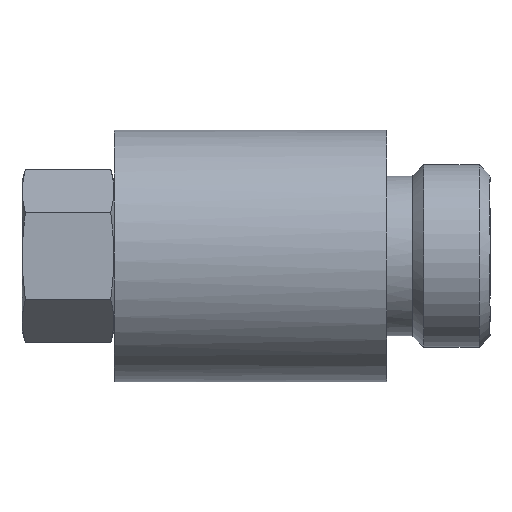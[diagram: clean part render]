
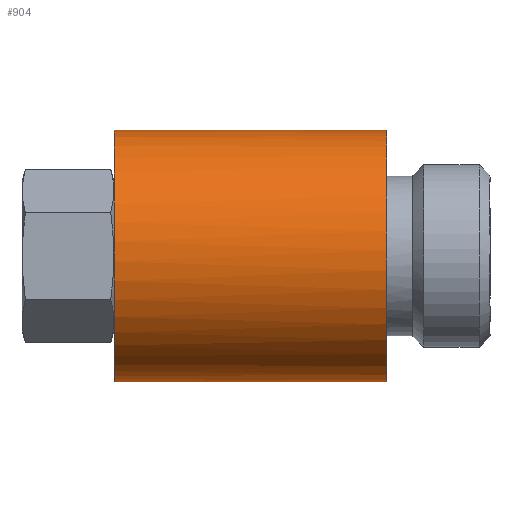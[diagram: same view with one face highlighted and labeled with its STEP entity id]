
A CAD part, left-side view. The second image highlights one B-rep face of the part: STEP entity #904.
In plain terms, the highlighted free-form (B-spline) face has degree [1, 3] with [2, 4] control points.
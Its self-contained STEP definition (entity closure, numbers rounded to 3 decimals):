
#9 = B_SPLINE_CURVE_WITH_KNOTS ( 'NONE', 1,
 ( #682, #81 ),
 .UNSPECIFIED., .F., .F.,
 ( 2, 2 ),
 ( 0., 1. ),
 .UNSPECIFIED. ) ;
#34 = EDGE_CURVE ( 'NONE', #35, #598, #136, .T. ) ;
#35 = VERTEX_POINT ( 'NONE', #1016 ) ;
#81 = CARTESIAN_POINT ( 'NONE',  ( 0., 14.5, -6.7 ) ) ;
#136 =( BOUNDED_CURVE ( )  B_SPLINE_CURVE ( 3, ( #1492, #519, #889, #1250 ),
 .UNSPECIFIED., .F., .T. ) 
 B_SPLINE_CURVE_WITH_KNOTS ( ( 4, 4 ),
 ( 0., 0.5 ),
 .UNSPECIFIED. ) 
 CURVE ( )  GEOMETRIC_REPRESENTATION_ITEM ( )  RATIONAL_B_SPLINE_CURVE ( ( 1., 0.333, 0.333, 1. ) ) 
 REPRESENTATION_ITEM ( '' )  );
#256 =( BOUNDED_CURVE ( )  B_SPLINE_CURVE ( 3, ( #336, #1088, #296, #604 ),
 .UNSPECIFIED., .F., .T. ) 
 B_SPLINE_CURVE_WITH_KNOTS ( ( 4, 4 ),
 ( 0.5, 1. ),
 .UNSPECIFIED. ) 
 CURVE ( )  GEOMETRIC_REPRESENTATION_ITEM ( )  RATIONAL_B_SPLINE_CURVE ( ( 1., 0.333, 0.333, 1. ) ) 
 REPRESENTATION_ITEM ( '' )  );
#296 = CARTESIAN_POINT ( 'NONE',  ( -13.4, 14.5, -6.7 ) ) ;
#336 = CARTESIAN_POINT ( 'NONE',  ( 0., 14.5, 6.7 ) ) ;
#498 = ORIENTED_EDGE ( 'NONE', *, *, #1180, .T. ) ;
#503 = ORIENTED_EDGE ( 'NONE', *, *, #1001, .T. ) ;
#507 = EDGE_CURVE ( 'NONE', #35, #1260, #9, .T. ) ;
#518 = CARTESIAN_POINT ( 'NONE',  ( 0., 14.5, -6.7 ) ) ;
#519 = CARTESIAN_POINT ( 'NONE',  ( -13.4, 0., -6.7 ) ) ;
#559 = B_SPLINE_CURVE_WITH_KNOTS ( 'NONE', 1,
 ( #1029, #1506 ),
 .UNSPECIFIED., .F., .F.,
 ( 2, 2 ),
 ( 0., 1. ),
 .UNSPECIFIED. ) ;
#582 = CARTESIAN_POINT ( 'NONE',  ( 0., 14.5, -6.7 ) ) ;
#598 = VERTEX_POINT ( 'NONE', #1288 ) ;
#604 = CARTESIAN_POINT ( 'NONE',  ( 0., 14.5, -6.7 ) ) ;
#682 = CARTESIAN_POINT ( 'NONE',  ( 0., 0., -6.7 ) ) ;
#697 = ORIENTED_EDGE ( 'NONE', *, *, #34, .T. ) ;
#743 =( BOUNDED_SURFACE ( )  B_SPLINE_SURFACE ( 1, 3, ( 
 ( #1399, #1607, #1131, #774 ),
 ( #1615, #1147, #750, #518 ) ),
 .UNSPECIFIED., .F., .F., .F. ) 
 B_SPLINE_SURFACE_WITH_KNOTS ( ( 2, 2 ),
 ( 4, 4 ),
 ( 0., 1. ),
 ( 0., 1. ),
 .UNSPECIFIED. ) 
 GEOMETRIC_REPRESENTATION_ITEM ( )  RATIONAL_B_SPLINE_SURFACE ( (
 ( 1., 0.333, 0.333, 1.),
 ( 1., 0.333, 0.333, 1.) ) ) 
 REPRESENTATION_ITEM ( '' )  SURFACE ( )  );
#750 = CARTESIAN_POINT ( 'NONE',  ( -13.4, 14.5, -6.7 ) ) ;
#774 = CARTESIAN_POINT ( 'NONE',  ( 0., 0., -6.7 ) ) ;
#889 = CARTESIAN_POINT ( 'NONE',  ( -13.4, 0., 6.7 ) ) ;
#904 = ADVANCED_FACE ( 'NONE', ( #914 ), #743, .T. ) ;
#914 = FACE_OUTER_BOUND ( 'NONE', #1237, .T. ) ;
#1001 = EDGE_CURVE ( 'NONE', #1364, #1260, #256, .T. ) ;
#1016 = CARTESIAN_POINT ( 'NONE',  ( 0., 0., -6.7 ) ) ;
#1029 = CARTESIAN_POINT ( 'NONE',  ( 0., 0., 6.7 ) ) ;
#1088 = CARTESIAN_POINT ( 'NONE',  ( -13.4, 14.5, 6.7 ) ) ;
#1131 = CARTESIAN_POINT ( 'NONE',  ( -13.4, 0., -6.7 ) ) ;
#1147 = CARTESIAN_POINT ( 'NONE',  ( -13.4, 14.5, 6.7 ) ) ;
#1180 = EDGE_CURVE ( 'NONE', #598, #1364, #559, .T. ) ;
#1237 = EDGE_LOOP ( 'NONE', ( #697, #498, #503, #1510 ) ) ;
#1250 = CARTESIAN_POINT ( 'NONE',  ( 0., 0., 6.7 ) ) ;
#1260 = VERTEX_POINT ( 'NONE', #582 ) ;
#1288 = CARTESIAN_POINT ( 'NONE',  ( 0., 0., 6.7 ) ) ;
#1364 = VERTEX_POINT ( 'NONE', #1502 ) ;
#1399 = CARTESIAN_POINT ( 'NONE',  ( 0., 0., 6.7 ) ) ;
#1492 = CARTESIAN_POINT ( 'NONE',  ( 0., 0., -6.7 ) ) ;
#1502 = CARTESIAN_POINT ( 'NONE',  ( 0., 14.5, 6.7 ) ) ;
#1506 = CARTESIAN_POINT ( 'NONE',  ( 0., 14.5, 6.7 ) ) ;
#1510 = ORIENTED_EDGE ( 'NONE', *, *, #507, .F. ) ;
#1607 = CARTESIAN_POINT ( 'NONE',  ( -13.4, 0., 6.7 ) ) ;
#1615 = CARTESIAN_POINT ( 'NONE',  ( 0., 14.5, 6.7 ) ) ;
